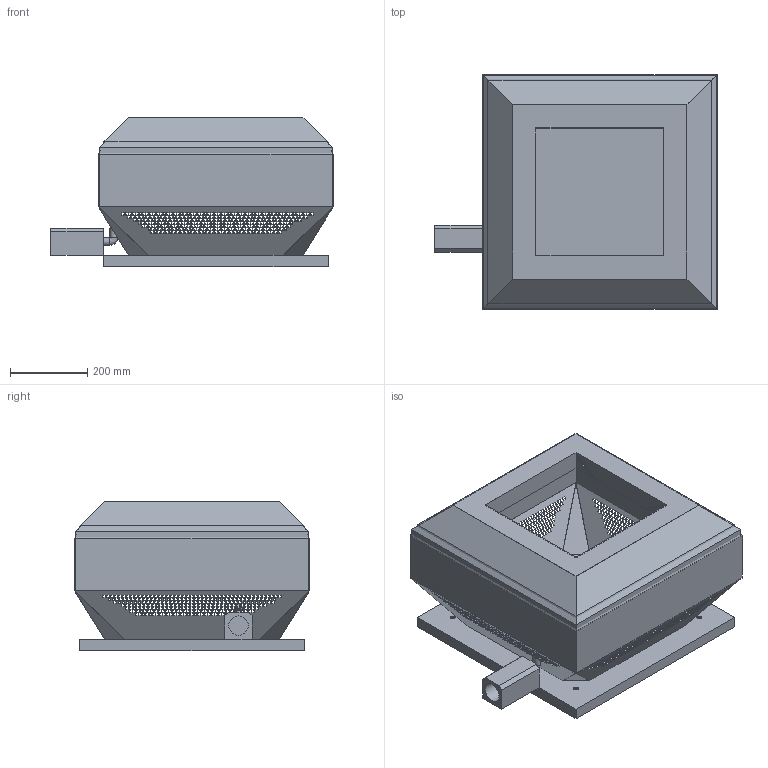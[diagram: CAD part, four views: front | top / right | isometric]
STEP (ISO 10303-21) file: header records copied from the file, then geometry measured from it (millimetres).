
FILE_DESCRIPTION(/* description */ (''),/* implementation_level */ '2;1');
FILE_NAME(/* name */ 'Z:\Output\RDD 315-4 EX-07303-001.stp',/* time_stamp */ '2017-05-05T15:52:22+02:00',/* author */ ('engineering1'),/* organization */ (''),/* preprocessor_version */ 'ST-DEVELOPER v16.5',/* originating_system */ 'Autodesk Inventor 2017',/* authorisation */ '');
FILE_SCHEMA (('AUTOMOTIVE_DESIGN { 1 0 10303 214 3 1 1 }'));
Products named in the file (1): RD-2
Bounding box: 729 x 606 x 386 mm (x, y, z)
Volume: 3479017.5 mm3; surface area: 2928202.8 mm2
Topology: 1 solids, 4 shells, 4799 faces, 14330 edges, 9536 vertices
Faces by surface type: plane 4786, cylinder 10, bspline 3
Full cylindrical faces by diameter (mm): 8 x1, 12 x4, 20 x3, 50 x1
Entity records: 162573 total; most frequent: CARTESIAN_POINT 28788, ORIENTED_EDGE 28632, DIRECTION 23933, EDGE_CURVE 14315, LINE 14277, VECTOR 14277, VERTEX_POINT 9534, EDGE_LOOP 7158
